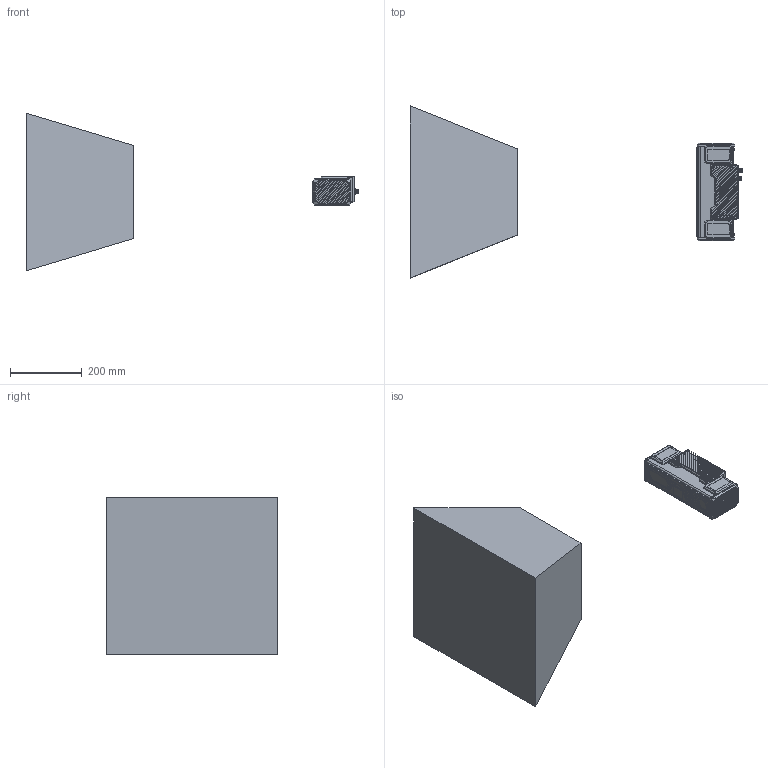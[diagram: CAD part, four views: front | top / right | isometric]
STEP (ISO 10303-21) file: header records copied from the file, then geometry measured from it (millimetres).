
FILE_DESCRIPTION((''),'2;1');
FILE_NAME('MV-DLS250U-05_ASM','2025-04-22T20:30:44',('guodanfeng'),(''),'CREO PARAMETRIC BY PTC INC, 2020044','CREO PARAMETRIC BY PTC INC, 2020044','');
FILE_SCHEMA(('AUTOMOTIVE_DESIGN { 1 0 10303 214 1 1 1 1 }'));
Products named in the file (19): DE-16-000642-1; L102-M12-Z12A23C; L102-M12-Z08A11F; MV-23429_ASM; DE-19-009310; DE-14-062019; DE-18-000259; DE-18-000260; DF-14-000009; DE-14-060441; DE-14-060441-ASM_ASM; SC-P0SFM4X10-GB9074_4; DE-18-000273; DE-17-003492; DE-13-002747; DE-13-002748_ASM; DE-17-004093; SC-HSCSM4X10NL-SUS; MV-DLS250U-05_ASM
Assembly tree (36 placements, depth 3):
  MV-DLS250U-05_ASM
    DE-16-000642-1
    MV-23429_ASM
      L102-M12-Z12A23C
      L102-M12-Z08A11F
    DE-19-009310
    DE-14-062019
    DE-18-000259
    DE-18-000260
    DF-14-000009  x12
    DE-14-060441-ASM_ASM  x2
      DE-14-060441
    SC-P0SFM4X10-GB9074_4
    DE-18-000273
    DE-17-003492
    DE-13-002748_ASM
      DE-13-002747
    DE-17-004093  x2
    SC-HSCSM4X10NL-SUS  x6
Bounding box: 927 x 480 x 440 mm (x, y, z)
Volume: 2194803.4 mm3; surface area: 1038575.7 mm2
Topology: 58 solids, 122 shells, 3929 faces, 10335 edges, 6729 vertices
Faces by surface type: plane 1830, cylinder 1479, cone 308, bspline 182, torus 82, sphere 40, extrusion 8
Entity records: 121657 total; most frequent: CARTESIAN_POINT 34790, ORIENTED_EDGE 15982, DIRECTION 15765, EDGE_CURVE 8026, AXIS2_PLACEMENT_3D 5748, VERTEX_POINT 5306, VECTOR 4269, LINE 4261
